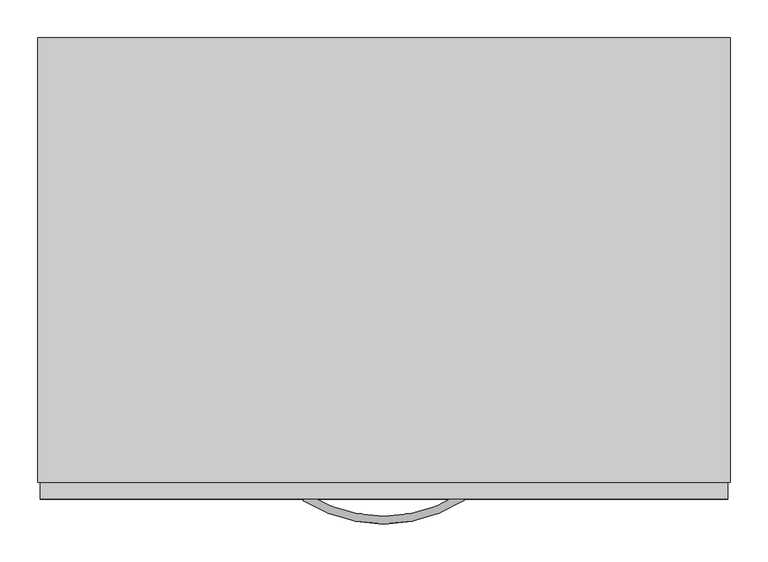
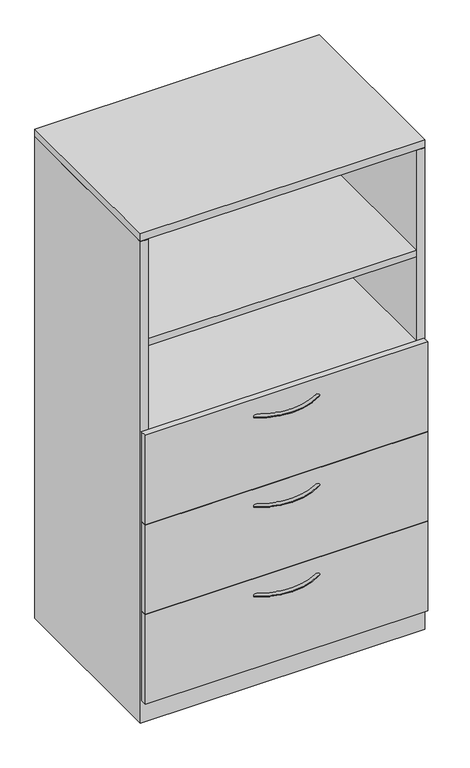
"""IFC4 building model written with IfcOpenShell, lengths in millimetres: furniture geometry, Steelcase - Universal Storage - Cabinet - Combination - Proud Steel : 65 1/2H - Open Cabinet/3 Drawers - 24D x 36W."""

from ifc_helpers import new_model, si_unit, point, frame, origin, place, context, project, spatial, polyline, circle_curve, ellipse_curve, trimmed, outline, extrude, faceted_brep, source, transform, mapped, element, save
from ifc_brep_helpers import plane_surface, revolved_surface, advanced_brep


def furniture_926852b5(model_context):
    return source(origin(), model_context, "Body", "SolidModel", [
        extrude(outline(polyline([(889.0000242, 104.6479992), (889.0000242, -454.0250121), (25.4000008, -454.0250121), (25.4000008, 104.6479992), (889.0000242, 104.6479992)])), frame((0.0, 0.0, 660.4000242), z_axis=(0.0, 0.0, 1.0), x_axis=(1.0, 0.0, 0.0)), (0.0, 0.0, 1.0), 22.2249516),
        extrude(outline(polyline([(889.0000242, 104.6479992), (889.0000242, -454.0250121), (25.4000008, -454.0250121), (25.4000008, 104.6479992), (889.0000242, 104.6479992)])), frame((0.0, 0.0, 965.2000242), z_axis=(0.0, 0.0, 1.0), x_axis=(1.0, 0.0, 0.0)), (0.0, 0.0, 1.0), 22.2249516),
        extrude(outline(polyline([(889.0000242, 104.6479992), (889.0000242, -454.0250121), (25.4000008, -454.0250121), (25.4000008, 104.6479992), (889.0000242, 104.6479992)])), frame((0.0, 0.0, 1273.1750484), z_axis=(0.0, 0.0, 1.0), x_axis=(1.0, 0.0, 0.0)), (0.0, 0.0, 1.0), 22.2249516),
        advanced_brep(
        [(350.6245932, -481.5705994, 323.56425), (356.0977519, -473.0108019, 323.56425), (562.9315136, -481.1337636, 323.56425), (557.4231767, -472.5965612, 323.56425)],
        [
            (0, 1, circle_curve(frame((353.3611726, -477.2907007, 323.56425), z_axis=(-0.8424997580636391, 0.5386967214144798, 0.0), x_axis=(0.5386967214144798, 0.8424997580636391, 0.0)), 5.08)),
            (1, 0, circle_curve(frame((353.3611726, -477.2907007, 323.56425), z_axis=(-0.8424997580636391, 0.5386967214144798, 0.0), x_axis=(0.5386967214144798, 0.8424997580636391, 0.0)), 5.08)),
            (2, 3, circle_curve(frame((560.1773452, -476.8651624, 323.56425), z_axis=(0.8402758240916, 0.5421591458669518, 0.0), x_axis=(-0.5421591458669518, 0.8402758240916, 0.0)), 5.08)),
            (3, 2, circle_curve(frame((560.1773452, -476.8651624, 323.56425), z_axis=(0.8402758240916, 0.5421591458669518, 0.0), x_axis=(-0.5421591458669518, 0.8402758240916, 0.0)), 5.08)),
            (3, 1, circle_curve(frame((456.4380004, -316.0827352, 323.56425), z_axis=(0.0, 0.0, -1.0), x_axis=(-0.5386967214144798, -0.8424997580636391, 0.0)), 186.2648211)),
            (0, 2, circle_curve(frame((456.4380004, -316.0827352, 323.56425), z_axis=(0.0, 0.0, 1.0), x_axis=(-0.5386967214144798, -0.8424997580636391, 0.0)), 196.4248211)),
        ],
        [
            plane_surface(frame((353.7794521, -476.6365286, 324.358), z_axis=(-0.8424997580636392, 0.5386967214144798, 0.0), x_axis=(0.0, 0.0, 1.0))),
            plane_surface(frame((559.7563772, -476.2127171, 324.358), z_axis=(0.8402758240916, 0.5421591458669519, 0.0), x_axis=(0.0, 0.0, 1.0))),
            revolved_surface(trimmed(ellipse_curve(frame((353.3611726, -477.2907007, 323.56425), z_axis=(-0.8424997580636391, 0.5386967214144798, 0.0), x_axis=(0.5386967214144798, 0.8424997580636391, 0.0)), 5.08, 5.08), [point((350.6245932, -481.5705994, 323.56425))], [point((356.0977519, -473.0108019, 323.56425))], True, "CARTESIAN"), (456.4380004, -316.0827352, 324.358), (0.0, 0.0, 1.0)),
            revolved_surface(trimmed(ellipse_curve(frame((353.3611726, -477.2907007, 323.56425), z_axis=(-0.8424997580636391, 0.5386967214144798, 0.0), x_axis=(0.5386967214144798, 0.8424997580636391, 0.0)), 5.08, 5.08), [point((356.0977519, -473.0108019, 323.56425))], [point((350.6245932, -481.5705994, 323.56425))], True, "CARTESIAN"), (456.4380004, -316.0827352, 324.358), (0.0, 0.0, 1.0)),
        ],
        [
            (0, [[1, 2]]),
            (1, [[3, 4]]),
            (2, [[5, -1, 6, -4]]),
            (3, [[-6, -2, -5, -3]]),
        ],
    ),
        advanced_brep(
        [(350.6245932, -481.5705994, 627.85625), (356.0977519, -473.0108019, 627.85625), (562.9315136, -481.1337636, 627.85625), (557.4231767, -472.5965612, 627.85625)],
        [
            (0, 1, circle_curve(frame((353.3611726, -477.2907007, 627.85625), z_axis=(-0.8424997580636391, 0.5386967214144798, 0.0), x_axis=(0.5386967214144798, 0.8424997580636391, 0.0)), 5.08)),
            (1, 0, circle_curve(frame((353.3611726, -477.2907007, 627.85625), z_axis=(-0.8424997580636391, 0.5386967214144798, 0.0), x_axis=(0.5386967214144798, 0.8424997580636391, 0.0)), 5.08)),
            (2, 3, circle_curve(frame((560.1773452, -476.8651624, 627.85625), z_axis=(0.8402758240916, 0.5421591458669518, 0.0), x_axis=(-0.5421591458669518, 0.8402758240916, 0.0)), 5.08)),
            (3, 2, circle_curve(frame((560.1773452, -476.8651624, 627.85625), z_axis=(0.8402758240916, 0.5421591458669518, 0.0), x_axis=(-0.5421591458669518, 0.8402758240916, 0.0)), 5.08)),
            (3, 1, circle_curve(frame((456.4380004, -316.0827352, 627.85625), z_axis=(0.0, 0.0, -1.0), x_axis=(-0.5386967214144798, -0.8424997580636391, 0.0)), 186.2648211)),
            (0, 2, circle_curve(frame((456.4380004, -316.0827352, 627.85625), z_axis=(0.0, 0.0, 1.0), x_axis=(-0.5386967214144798, -0.8424997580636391, 0.0)), 196.4248211)),
        ],
        [
            plane_surface(frame((353.7794521, -476.6365286, 628.65), z_axis=(-0.8424997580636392, 0.5386967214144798, 0.0), x_axis=(0.0, 0.0, 1.0))),
            plane_surface(frame((559.7563772, -476.2127171, 628.65), z_axis=(0.8402758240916, 0.5421591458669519, 0.0), x_axis=(0.0, 0.0, 1.0))),
            revolved_surface(trimmed(ellipse_curve(frame((353.3611726, -477.2907007, 627.85625), z_axis=(-0.8424997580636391, 0.5386967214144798, 0.0), x_axis=(0.5386967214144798, 0.8424997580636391, 0.0)), 5.08, 5.08), [point((350.6245932, -481.5705994, 627.85625))], [point((356.0977519, -473.0108019, 627.85625))], True, "CARTESIAN"), (456.4380004, -316.0827352, 628.65), (0.0, 0.0, 1.0)),
            revolved_surface(trimmed(ellipse_curve(frame((353.3611726, -477.2907007, 627.85625), z_axis=(-0.8424997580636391, 0.5386967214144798, 0.0), x_axis=(0.5386967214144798, 0.8424997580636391, 0.0)), 5.08, 5.08), [point((356.0977519, -473.0108019, 627.85625))], [point((350.6245932, -481.5705994, 627.85625))], True, "CARTESIAN"), (456.4380004, -316.0827352, 628.65), (0.0, 0.0, 1.0)),
        ],
        [
            (0, [[1, 2]]),
            (1, [[3, 4]]),
            (2, [[5, -1, 6, -4]]),
            (3, [[-6, -2, -5, -3]]),
        ],
    ),
        extrude(outline(polyline([(911.2225413, -479.552), (3.1725353, -479.552), (3.1725353, -457.3261219), (911.2225413, -457.3261219), (911.2225413, -479.552)])), frame((0.0, 0.0, 687.3240349), z_axis=(0.0, 0.0, 1.0), x_axis=(1.0, 0.0, 0.0)), (0.0, 0.0, 1.0), 303.2759651),
        advanced_brep(
        [(350.6245932, -481.5705994, 932.65625), (356.0977519, -473.0108019, 932.65625), (562.9315136, -481.1337636, 932.65625), (557.4231767, -472.5965612, 932.65625)],
        [
            (0, 1, circle_curve(frame((353.3611726, -477.2907007, 932.65625), z_axis=(-0.8424997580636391, 0.5386967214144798, 0.0), x_axis=(0.5386967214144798, 0.8424997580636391, 0.0)), 5.08)),
            (1, 0, circle_curve(frame((353.3611726, -477.2907007, 932.65625), z_axis=(-0.8424997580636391, 0.5386967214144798, 0.0), x_axis=(0.5386967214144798, 0.8424997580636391, 0.0)), 5.08)),
            (2, 3, circle_curve(frame((560.1773452, -476.8651624, 932.65625), z_axis=(0.8402758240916, 0.5421591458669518, 0.0), x_axis=(-0.5421591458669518, 0.8402758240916, 0.0)), 5.08)),
            (3, 2, circle_curve(frame((560.1773452, -476.8651624, 932.65625), z_axis=(0.8402758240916, 0.5421591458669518, 0.0), x_axis=(-0.5421591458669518, 0.8402758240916, 0.0)), 5.08)),
            (3, 1, circle_curve(frame((456.4380004, -316.0827352, 932.65625), z_axis=(0.0, 0.0, -1.0), x_axis=(-0.5386967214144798, -0.8424997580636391, 0.0)), 186.2648211)),
            (0, 2, circle_curve(frame((456.4380004, -316.0827352, 932.65625), z_axis=(0.0, 0.0, 1.0), x_axis=(-0.5386967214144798, -0.8424997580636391, 0.0)), 196.4248211)),
        ],
        [
            plane_surface(frame((353.7794521, -476.6365286, 933.45), z_axis=(-0.8424997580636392, 0.5386967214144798, 0.0), x_axis=(0.0, 0.0, 1.0))),
            plane_surface(frame((559.7563772, -476.2127171, 933.45), z_axis=(0.8402758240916, 0.5421591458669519, 0.0), x_axis=(0.0, 0.0, 1.0))),
            revolved_surface(trimmed(ellipse_curve(frame((353.3611726, -477.2907007, 932.65625), z_axis=(-0.8424997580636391, 0.5386967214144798, 0.0), x_axis=(0.5386967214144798, 0.8424997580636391, 0.0)), 5.08, 5.08), [point((350.6245932, -481.5705994, 932.65625))], [point((356.0977519, -473.0108019, 932.65625))], True, "CARTESIAN"), (456.4380004, -316.0827352, 933.45), (0.0, 0.0, 1.0)),
            revolved_surface(trimmed(ellipse_curve(frame((353.3611726, -477.2907007, 932.65625), z_axis=(-0.8424997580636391, 0.5386967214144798, 0.0), x_axis=(0.5386967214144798, 0.8424997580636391, 0.0)), 5.08, 5.08), [point((356.0977519, -473.0108019, 932.65625))], [point((350.6245932, -481.5705994, 932.65625))], True, "CARTESIAN"), (456.4380004, -316.0827352, 933.45), (0.0, 0.0, 1.0)),
        ],
        [
            (0, [[1, 2]]),
            (1, [[3, 4]]),
            (2, [[5, -1, 6, -4]]),
            (3, [[-6, -2, -5, -3]]),
        ],
    ),
        faceted_brep([(25.4000008, -457.3261219, 76.2), (889.0000242, -457.3261219, 76.2), (889.0000242, 104.6479992, 76.2), (25.4000008, 104.6479992, 76.2), (914.4, 130.048, 0.0), (914.4, -457.3261219, 0.0), (0.0, -457.3261219, 0.0), (0.0, 130.048, 0.0), (0.0, 130.048, 1636.776), (914.4, 130.048, 1636.776), (0.0, -457.3261219, 1636.776), (914.4, -457.3261219, 1636.776), (889.0000242, -457.3261219, 1636.776), (25.4000008, -457.3261219, 1636.776), (889.0000242, 104.6479992, 1636.776), (25.4000008, 104.6479992, 1636.776)], [[[0, 1, 2, 3]], [[4, 5, 6, 7]], [[4, 7, 8, 9]], [[8, 7, 6, 10]], [[10, 6, 5, 11, 12, 1, 0, 13]], [[11, 5, 4, 9]], [[14, 12, 11, 9, 8, 10, 13, 15]], [[12, 14, 2, 1]], [[15, 13, 0, 3]], [[14, 15, 3, 2]]]),
        extrude(outline(polyline([(911.2225413, -479.552), (3.1725353, -479.552), (3.1725353, -457.3261219), (911.2225413, -457.3261219), (911.2225413, -479.552)])), frame((0.0, 0.0, 77.724), z_axis=(0.0, 0.0, 1.0), x_axis=(1.0, 0.0, 0.0)), (0.0, 0.0, 1.0), 303.276),
        extrude(outline(polyline([(911.2225413, -479.552), (3.1725353, -479.552), (3.1725353, -457.3261219), (911.2225413, -457.3261219), (911.2225413, -479.552)])), frame((0.0, 0.0, 382.524), z_axis=(0.0, 0.0, 1.0), x_axis=(1.0, 0.0, 0.0)), (0.0, 0.0, 1.0), 303.276),
        extrude(outline(polyline([(914.4, 130.048), (914.4, -457.3261219), (0.0, -457.3261219), (0.0, 130.048), (914.4, 130.048)])), frame((0.0, 0.0, 1638.2999516), z_axis=(0.0, 0.0, 1.0), x_axis=(1.0, 0.0, 0.0)), (0.0, 0.0, 1.0), 25.4000484),
    ])


if __name__ == "__main__":
    model = new_model("IFC4")
    model_context = context("Model", 3, world=origin())
    ifc_project = project(units=[si_unit("LENGTHUNIT", "METRE", prefix="MILLI")], contexts=[model_context])
    site = spatial("IfcSite", under=ifc_project)
    building = spatial("IfcBuilding", under=site)
    placement = place(None, origin())
    furniture_shape = furniture_926852b5(model_context)
    element("IfcFurniture", 1, ObjectType="Steelcase - Universal Storage - Cabinet - Combination - Proud Steel : 65 1/2H - Open Cabinet/3 Drawers - 24D x 36W", at=placement, inside=building, context=model_context, shape_type="MappedRepresentation", body=[
        mapped(furniture_shape, transform((0.0, 0.0, 0.0), x_axis=(1.0, 0.0, 0.0), y_axis=(0.0, 1.0, 0.0), z_axis=(0.0, 0.0, 1.0))),
    ])
    save(model, "model.ifc")
